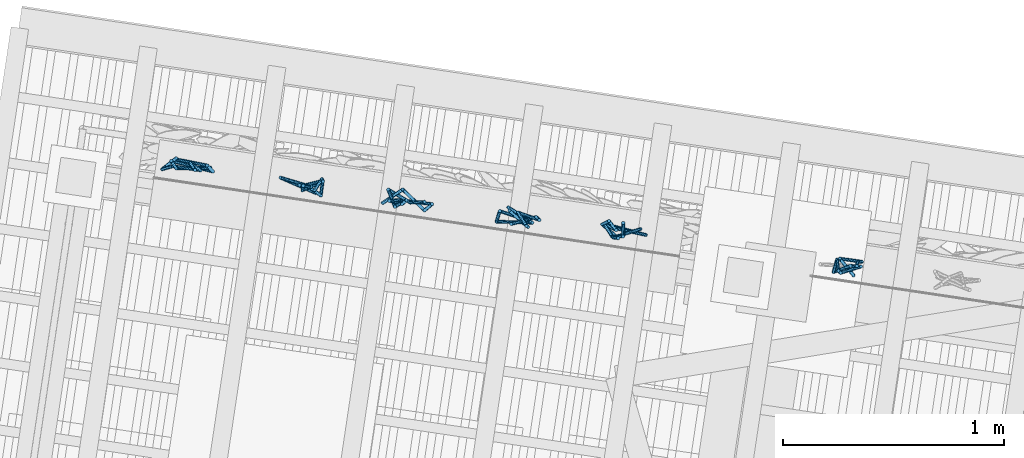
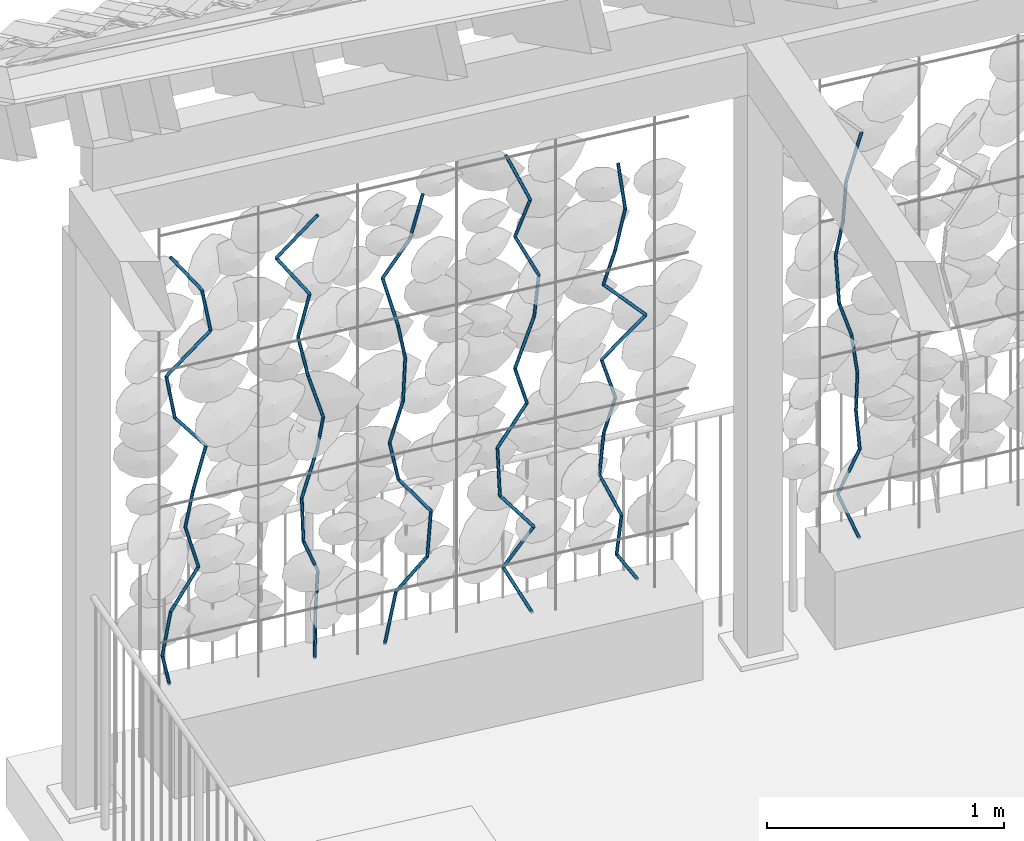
# One storey, part 108 of 131: 65 members, 1 element without a shape of its own.
"""IFC4 building model written with IfcOpenShell, lengths in metres."""

from ifc_helpers import new_model, si_unit, direction, frame, origin_with_axes, place, context, subcontext, project, spatial, circle, extrude, material, material_profile, profile_set, profile_usage, type_object, element, aggregate, save


model = new_model("IFC4")

# Units and contexts
model_context = context("Model", 3, precision=1e-05, world=origin_with_axes(), true_north=direction((0.0, 1.0)))
body_context = subcontext(model_context, "Body", "Model", "MODEL_VIEW")
ifc_project = project(units=[si_unit("VOLUMEUNIT", "CUBIC_METRE"), si_unit("LENGTHUNIT", "METRE"), si_unit("AREAUNIT", "SQUARE_METRE")], contexts=[model_context])

# Site, building, storey
site_placement = place(None, origin_with_axes())
site = spatial("IfcSite", under=ifc_project, at=site_placement, Name="Lares · Rua das Mercês · artigo 4771")
building_placement = place(site_placement, frame((15.0, 9.7, 15.8), z_axis=(0.0, 0.0, 1.0), x_axis=(0.989015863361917, -0.147809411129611, 0.0)))
building = spatial("IfcBuilding", under=site, at=building_placement, Name="Casa Sobreposta")
storey_placement = place(building_placement, origin_with_axes())
storey = spatial("IfcBuildingStorey", under=building, at=storey_placement, Name="00 · Habitação e estacionamento", Elevation=15.8)

# Assembly, members
assembly_placement = place(storey_placement, origin_with_axes())
assembly = element("IfcElementAssembly", 1, at=assembly_placement, inside=storey, Name="Fachada sul e pátio · estrutura e trepadeiras", ObjectType="LIVING_SHADE_TRELLIS", PredefinedType="USERDEFINED")
ifc_material = material(Name="Ramos de trepadeiras", Category="wood")
ifc_material_profile = material_profile(ifc_material, circle(Radius=0.0075))
ifc_profile_set = profile_set([ifc_material_profile], Name="D0.015")
ifc_profile_usage_1 = profile_usage(ifc_profile_set)
member_type = type_object("IfcMemberType", Name="D0.015 / vine_wood", PredefinedType="NOTDEFINED", material=ifc_profile_set)
member_1_placement = place(assembly_placement, frame((-5.61411857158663, 6.58271123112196, 0.35), z_axis=(-0.25595310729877, -0.272623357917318, 0.927450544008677), x_axis=(-0.729045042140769, 0.68446572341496, 0.0)))
member_1 = element("IfcMember", 2, at=member_1_placement, type_object=member_type, material=ifc_profile_usage_1, Name="Trepadeiras · ramo", context=body_context, shape_type="SweptSolid", body=[
    extrude(circle(Radius=0.0075), origin_with_axes(), (0.0, 0.0, 1.0), 0.216077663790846),
])
ifc_profile_usage_2 = profile_usage(ifc_profile_set)
member_2_placement = place(assembly_placement, frame((-5.66942432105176, 6.52380341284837, 0.550401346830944), z_axis=(0.223618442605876, 0.102514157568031, 0.969270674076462), x_axis=(0.416729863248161, -0.909030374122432, 0.0)))
member_2 = element("IfcMember", 3, at=member_2_placement, type_object=member_type, material=ifc_profile_usage_2, Name="Trepadeiras · ramo", context=body_context, shape_type="SweptSolid", body=[
    extrude(circle(Radius=0.0075), origin_with_axes(), (0.0, 0.0, 1.0), 0.206754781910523),
])
ifc_profile_usage_3 = profile_usage(ifc_profile_set)
member_3_placement = place(assembly_placement, frame((-5.62319013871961, 6.54499870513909, 0.750802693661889), z_axis=(0.532575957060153, 3.294163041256e-05, 0.846382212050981), x_axis=(6.18533937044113e-05, -0.999999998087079, 0.0)))
member_3 = element("IfcMember", 4, at=member_3_placement, type_object=member_type, material=ifc_profile_usage_3, Name="Trepadeiras · ramo", context=body_context, shape_type="SweptSolid", body=[
    extrude(circle(Radius=0.0075), origin_with_axes(), (0.0, 0.0, 1.0), 0.236774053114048),
])
ifc_profile_usage_4 = profile_usage(ifc_profile_set)
member_4_placement = place(assembly_placement, frame((-5.49708997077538, 6.54500650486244, 0.951204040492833), z_axis=(-0.239528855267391, 0.119534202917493, 0.963502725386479), x_axis=(0.446525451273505, 0.894770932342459, 0.0)))
member_4 = element("IfcMember", 5, at=member_4_placement, type_object=member_type, material=ifc_profile_usage_4, Name="Trepadeiras · ramo", context=body_context, shape_type="SweptSolid", body=[
    extrude(circle(Radius=0.0075), origin_with_axes(), (0.0, 0.0, 1.0), 0.207992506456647),
])
ifc_profile_usage_5 = profile_usage(ifc_profile_set)
member_5_placement = place(assembly_placement, frame((-5.54691017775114, 6.56986872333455, 1.15160538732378), z_axis=(0.122474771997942, -0.132170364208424, 0.983631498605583), x_axis=(-0.733498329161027, -0.679691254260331, 0.0)))
member_5 = element("IfcMember", 6, at=member_5_placement, type_object=member_type, material=ifc_profile_usage_5, Name="Trepadeiras · ramo", context=body_context, shape_type="SweptSolid", body=[
    extrude(circle(Radius=0.0075), origin_with_axes(), (0.0, 0.0, 1.0), 0.203736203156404),
])
ifc_profile_usage_6 = profile_usage(ifc_profile_set)
member_6_placement = place(assembly_placement, frame((-5.52195763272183, 6.54294083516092, 1.35200673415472), z_axis=(0.313091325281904, 0.099115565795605, 0.944536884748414), x_axis=(0.301808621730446, -0.953368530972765, 0.0)))
member_6 = element("IfcMember", 7, at=member_6_placement, type_object=member_type, material=ifc_profile_usage_6, Name="Trepadeiras · ramo", context=body_context, shape_type="SweptSolid", body=[
    extrude(circle(Radius=0.0075), origin_with_axes(), (0.0, 0.0, 1.0), 0.212168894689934),
])
ifc_profile_usage_7 = profile_usage(ifc_profile_set)
member_7_placement = place(assembly_placement, frame((-5.45552939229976, 6.56397007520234, 1.55240808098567), z_axis=(-0.600870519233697, -0.104344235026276, 0.792506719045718), x_axis=(-0.171094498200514, 0.985254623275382, 0.0)))
member_7 = element("IfcMember", 8, at=member_7_placement, type_object=member_type, material=ifc_profile_usage_7, Name="Trepadeiras · ramo", context=body_context, shape_type="SweptSolid", body=[
    extrude(circle(Radius=0.0075), origin_with_axes(), (0.0, 0.0, 1.0), 0.252870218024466),
])
ifc_profile_usage_8 = profile_usage(ifc_profile_set)
member_8_placement = place(assembly_placement, frame((-5.60747165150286, 6.53758452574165, 1.75280942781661), z_axis=(-0.131534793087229, 0.146118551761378, 0.980483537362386), x_axis=(0.743223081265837, 0.669043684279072, 0.0)))
member_8 = element("IfcMember", 9, at=member_8_placement, type_object=member_type, material=ifc_profile_usage_8, Name="Trepadeiras · ramo", context=body_context, shape_type="SweptSolid", body=[
    extrude(circle(Radius=0.0075), origin_with_axes(), (0.0, 0.0, 1.0), 0.204390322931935),
])
ifc_profile_usage_9 = profile_usage(ifc_profile_set)
member_9_placement = place(assembly_placement, frame((-5.63435609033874, 6.56744974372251, 1.95321077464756), z_axis=(0.69318811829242, -0.0709018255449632, 0.717260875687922), x_axis=(-0.101752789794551, -0.994809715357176, -7.14259946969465e-18)))
member_9 = element("IfcMember", 10, at=member_9_placement, type_object=member_type, material=ifc_profile_usage_9, Name="Trepadeiras · ramo", context=body_context, shape_type="SweptSolid", body=[
    extrude(circle(Radius=0.0075), origin_with_axes(), (0.0, 0.0, 1.0), 0.27939812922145),
])
ifc_profile_usage_10 = profile_usage(ifc_profile_set)
member_10_placement = place(assembly_placement, frame((-5.44068062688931, 6.54763990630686, 2.1536121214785), z_axis=(-0.148451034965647, 0.114497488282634, 0.98226911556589), x_axis=(0.610730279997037, 0.791838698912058, 0.0)))
member_10 = element("IfcMember", 11, at=member_10_placement, type_object=member_type, material=ifc_profile_usage_10, Name="Trepadeiras · ramo", context=body_context, shape_type="SweptSolid", body=[
    extrude(circle(Radius=0.0075), origin_with_axes(), (0.0, 0.0, 1.0), 0.204018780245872),
])
ifc_profile_usage_11 = profile_usage(ifc_profile_set)
member_11_placement = place(assembly_placement, frame((-5.47096742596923, 6.5709995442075, 2.35401346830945), z_axis=(-0.571948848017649, 0.0270050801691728, 0.819844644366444), x_axis=(0.0471633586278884, 0.998887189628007, 0.0)))
member_11 = element("IfcMember", 12, at=member_11_placement, type_object=member_type, material=ifc_profile_usage_11, Name="Trepadeiras · ramo", context=body_context, shape_type="SweptSolid", body=[
    extrude(circle(Radius=0.0075), origin_with_axes(), (0.0, 0.0, 1.0), 0.244438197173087),
])
ifc_profile_usage_12 = profile_usage(ifc_profile_set)
member_12_placement = place(assembly_placement, frame((-4.97365541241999, 6.53247608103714, 0.35), z_axis=(0.113277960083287, 0.251041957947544, 0.961325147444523), x_axis=(0.911501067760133, -0.411297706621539, 0.0)))
member_12 = element("IfcMember", 13, at=member_12_placement, type_object=member_type, material=ifc_profile_usage_12, Name="Trepadeiras · ramo", context=body_context, shape_type="SweptSolid", body=[
    extrude(circle(Radius=0.0075), origin_with_axes(), (0.0, 0.0, 1.0), 0.217037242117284),
])
ifc_profile_usage_13 = profile_usage(ifc_profile_set)
member_13_placement = place(assembly_placement, frame((-4.94906987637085, 6.5869615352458, 0.55864335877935), z_axis=(0.0302040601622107, -0.0488837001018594, 0.998347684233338), x_axis=(-0.850710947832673, -0.525633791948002, -3.76738526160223e-18)))
member_13 = element("IfcMember", 14, at=member_13_placement, type_object=member_type, material=ifc_profile_usage_13, Name="Trepadeiras · ramo", context=body_context, shape_type="SweptSolid", body=[
    extrude(circle(Radius=0.0075), origin_with_axes(), (0.0, 0.0, 1.0), 0.208988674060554),
])
ifc_profile_usage_14 = profile_usage(ifc_profile_set)
member_14_placement = place(assembly_placement, frame((-4.9427575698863, 6.57674539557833, 0.7672867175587), z_axis=(-0.370433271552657, -0.228152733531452, 0.900402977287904), x_axis=(-0.524420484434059, 0.85145942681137, 0.0)))
member_14 = element("IfcMember", 15, at=member_14_placement, type_object=member_type, material=ifc_profile_usage_14, Name="Trepadeiras · ramo", context=body_context, shape_type="SweptSolid", body=[
    extrude(circle(Radius=0.0075), origin_with_axes(), (0.0, 0.0, 1.0), 0.231722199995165),
])
ifc_profile_usage_15 = profile_usage(ifc_profile_set)
member_15_placement = place(assembly_placement, frame((-5.02859518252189, 6.52387734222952, 0.97593007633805), z_axis=(0.00409407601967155, 0.0994936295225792, 0.995029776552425), x_axis=(0.999154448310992, -0.0411143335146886, -5.41693602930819e-19)))
member_15 = element("IfcMember", 16, at=member_15_placement, type_object=member_type, material=ifc_profile_usage_15, Name="Trepadeiras · ramo", context=body_context, shape_type="SweptSolid", body=[
    extrude(circle(Radius=0.0075), origin_with_axes(), (0.0, 0.0, 1.0), 0.209685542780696),
])
ifc_profile_usage_16 = profile_usage(ifc_profile_set)
member_16_placement = place(assembly_placement, frame((-5.02773671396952, 6.54473971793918, 1.1845734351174), z_axis=(0.367459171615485, 0.156102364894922, 0.916845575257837), x_axis=(0.390996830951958, -0.920392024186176, 0.0)))
member_16 = element("IfcMember", 17, at=member_16_placement, type_object=member_type, material=ifc_profile_usage_16, Name="Trepadeiras · ramo", context=body_context, shape_type="SweptSolid", body=[
    extrude(circle(Radius=0.0075), origin_with_axes(), (0.0, 0.0, 1.0), 0.227566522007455),
])
ifc_profile_usage_17 = profile_usage(ifc_profile_set)
member_17_placement = place(assembly_placement, frame((-4.94411530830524, 6.58026339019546, 1.39321679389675), z_axis=(0.00546661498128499, -0.307535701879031, 0.951520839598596), x_axis=(-0.999842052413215, -0.0177727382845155, 0.0)))
member_17 = element("IfcMember", 18, at=member_17_placement, type_object=member_type, material=ifc_profile_usage_17, Name="Trepadeiras · ramo", context=body_context, shape_type="SweptSolid", body=[
    extrude(circle(Radius=0.0075), origin_with_axes(), (0.0, 0.0, 1.0), 0.219273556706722),
])
ifc_profile_usage_18 = profile_usage(ifc_profile_set)
member_18_placement = place(assembly_placement, frame((-4.94291662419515, 6.51282894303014, 1.6018601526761), z_axis=(-0.262504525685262, 0.137652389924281, 0.955061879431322), x_axis=(0.464404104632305, 0.885623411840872, 0.0)))
member_18 = element("IfcMember", 19, at=member_18_placement, type_object=member_type, material=ifc_profile_usage_18, Name="Trepadeiras · ramo", context=body_context, shape_type="SweptSolid", body=[
    extrude(circle(Radius=0.0075), origin_with_axes(), (0.0, 0.0, 1.0), 0.218460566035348),
])
ifc_profile_usage_19 = profile_usage(ifc_profile_set)
member_19_placement = place(assembly_placement, frame((-5.00026351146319, 6.54290056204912, 1.81050351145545), z_axis=(-0.20895710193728, 0.00814681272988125, 0.977890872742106), x_axis=(0.0389583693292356, 0.999240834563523, 0.0)))
member_19 = element("IfcMember", 20, at=member_19_placement, type_object=member_type, material=ifc_profile_usage_19, Name="Trepadeiras · ramo", context=body_context, shape_type="SweptSolid", body=[
    extrude(circle(Radius=0.0075), origin_with_axes(), (0.0, 0.0, 1.0), 0.213360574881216),
])
ifc_profile_usage_20 = profile_usage(ifc_profile_set)
member_20_placement = place(assembly_placement, frame((-5.04484671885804, 6.54463877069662, 2.0191468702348), z_axis=(0.246434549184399, 0.00303803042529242, 0.969154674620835), x_axis=(0.0123270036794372, -0.999924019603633, 0.0)))
member_20 = element("IfcMember", 21, at=member_20_placement, type_object=member_type, material=ifc_profile_usage_20, Name="Trepadeiras · ramo", context=body_context, shape_type="SweptSolid", body=[
    extrude(circle(Radius=0.0075), origin_with_axes(), (0.0, 0.0, 1.0), 0.215283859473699),
])
ifc_profile_usage_21 = profile_usage(ifc_profile_set)
member_21_placement = place(assembly_placement, frame((-4.99179333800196, 6.54529280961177, 2.22779022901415), z_axis=(-0.565768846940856, 0.0803060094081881, 0.82064398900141), x_axis=(0.140532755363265, 0.990076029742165, 0.0)))
member_21 = element("IfcMember", 22, at=member_21_placement, type_object=member_type, material=ifc_profile_usage_21, Name="Trepadeiras · ramo", context=body_context, shape_type="SweptSolid", body=[
    extrude(circle(Radius=0.0075), origin_with_axes(), (0.0, 0.0, 1.0), 0.254243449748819),
])
ifc_profile_usage_22 = profile_usage(ifc_profile_set)
member_22_placement = place(assembly_placement, frame((-5.13563636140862, 6.56571008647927, 2.4364335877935), z_axis=(0.622808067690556, -0.168397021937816, 0.764037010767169), x_axis=(-0.261010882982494, -0.965335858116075, 0.0)))
member_22 = element("IfcMember", 23, at=member_22_placement, type_object=member_type, material=ifc_profile_usage_22, Name="Trepadeiras · ramo", context=body_context, shape_type="SweptSolid", body=[
    extrude(circle(Radius=0.0075), origin_with_axes(), (0.0, 0.0, 1.0), 0.273080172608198),
])
ifc_profile_usage_23 = profile_usage(ifc_profile_set)
member_23_placement = place(assembly_placement, frame((-4.66147928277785, 6.52019842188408, 0.35), z_axis=(0.347230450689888, 0.318450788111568, 0.882054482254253), x_axis=(0.675904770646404, -0.736988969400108, 0.0)))
member_23 = element("IfcMember", 24, at=member_23_placement, type_object=member_type, material=ifc_profile_usage_23, Name="Trepadeiras · ramo", context=body_context, shape_type="SweptSolid", body=[
    extrude(circle(Radius=0.0075), origin_with_axes(), (0.0, 0.0, 1.0), 0.232364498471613),
])
ifc_profile_usage_24 = profile_usage(ifc_profile_set)
member_24_placement = place(assembly_placement, frame((-4.58079525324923, 6.59419507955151, 0.554958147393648), z_axis=(0.452894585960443, -0.319221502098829, 0.832456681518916), x_axis=(-0.576118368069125, -0.817366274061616, 0.0)))
member_24 = element("IfcMember", 25, at=member_24_placement, type_object=member_type, material=ifc_profile_usage_24, Name="Trepadeiras · ramo", context=body_context, shape_type="SweptSolid", body=[
    extrude(circle(Radius=0.0075), origin_with_axes(), (0.0, 0.0, 1.0), 0.246208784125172),
])
ifc_profile_usage_25 = profile_usage(ifc_profile_set)
member_25_placement = place(assembly_placement, frame((-4.46928862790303, 6.51559994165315, 0.759916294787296), z_axis=(0.140844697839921, 0.157390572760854, 0.977441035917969), x_axis=(0.745190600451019, -0.666851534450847, 0.0)))
member_25 = element("IfcMember", 26, at=member_25_placement, type_object=member_type, material=ifc_profile_usage_25, Name="Trepadeiras · ramo", context=body_context, shape_type="SweptSolid", body=[
    extrude(circle(Radius=0.0075), origin_with_axes(), (0.0, 0.0, 1.0), 0.209688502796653),
])
ifc_profile_usage_26 = profile_usage(ifc_profile_set)
member_26_placement = place(assembly_placement, frame((-4.43975511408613, 6.54860293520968, 0.964874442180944), z_axis=(-0.589789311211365, -0.0157253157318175, 0.807404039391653), x_axis=(-0.0266531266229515, 0.9996447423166, 0.0)))
member_26 = element("IfcMember", 27, at=member_26_placement, type_object=member_type, material=ifc_profile_usage_26, Name="Trepadeiras · ramo", context=body_context, shape_type="SweptSolid", body=[
    extrude(circle(Radius=0.0075), origin_with_axes(), (0.0, 0.0, 1.0), 0.25384830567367),
])
ifc_profile_usage_27 = profile_usage(ifc_profile_set)
member_27_placement = place(assembly_placement, frame((-4.58947213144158, 6.54461109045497, 1.16983258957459), z_axis=(-0.208706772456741, -0.0466453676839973, 0.976865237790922), x_axis=(-0.218115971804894, 0.975922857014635, 0.0)))
member_27 = element("IfcMember", 28, at=member_27_placement, type_object=member_type, material=ifc_profile_usage_27, Name="Trepadeiras · ramo", context=body_context, shape_type="SweptSolid", body=[
    extrude(circle(Radius=0.0075), origin_with_axes(), (0.0, 0.0, 1.0), 0.209812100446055),
])
ifc_profile_usage_28 = profile_usage(ifc_profile_set)
member_28_placement = place(assembly_placement, frame((-4.63326133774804, 6.53482432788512, 1.37479073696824), z_axis=(0.277794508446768, -0.0278912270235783, 0.960235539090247), x_axis=(-0.0999001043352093, -0.994997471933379, 0.0)))
member_28 = element("IfcMember", 29, at=member_28_placement, type_object=member_type, material=ifc_profile_usage_28, Name="Trepadeiras · ramo", context=body_context, shape_type="SweptSolid", body=[
    extrude(circle(Radius=0.0075), origin_with_axes(), (0.0, 0.0, 1.0), 0.213445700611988),
])
ifc_profile_usage_29 = profile_usage(ifc_profile_set)
member_29_placement = place(assembly_placement, frame((-4.57396729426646, 6.52887106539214, 1.57974888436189), z_axis=(0.0838687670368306, 0.0956181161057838, 0.991878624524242), x_axis=(0.751785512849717, -0.659407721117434, 0.0)))
member_29 = element("IfcMember", 30, at=member_29_placement, type_object=member_type, material=ifc_profile_usage_29, Name="Trepadeiras · ramo", context=body_context, shape_type="SweptSolid", body=[
    extrude(circle(Radius=0.0075), origin_with_axes(), (0.0, 0.0, 1.0), 0.206636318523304),
])
ifc_profile_usage_30 = profile_usage(ifc_profile_set)
member_30_placement = place(assembly_placement, frame((-4.55663696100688, 6.54862924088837, 1.78470703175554), z_axis=(-0.222276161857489, -0.169561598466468, 0.96012612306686), x_axis=(-0.606514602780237, 0.795072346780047, 0.0)))
member_30 = element("IfcMember", 31, at=member_30_placement, type_object=member_type, material=ifc_profile_usage_30, Name="Trepadeiras · ramo", context=body_context, shape_type="SweptSolid", body=[
    extrude(circle(Radius=0.0075), origin_with_axes(), (0.0, 0.0, 1.0), 0.213470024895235),
])
ifc_profile_usage_31 = profile_usage(ifc_profile_set)
member_31_placement = place(assembly_placement, frame((-4.60408625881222, 6.51243292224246, 1.98966517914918), z_axis=(-0.187183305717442, 0.32523361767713, 0.926922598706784), x_axis=(0.866705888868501, 0.498819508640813, 0.0)))
member_31 = element("IfcMember", 32, at=member_31_placement, type_object=member_type, material=ifc_profile_usage_31, Name="Trepadeiras · ramo", context=body_context, shape_type="SweptSolid", body=[
    extrude(circle(Radius=0.0075), origin_with_axes(), (0.0, 0.0, 1.0), 0.221116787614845),
])
ifc_profile_usage_32 = profile_usage(ifc_profile_set)
member_32_placement = place(assembly_placement, frame((-4.64547563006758, 6.58434753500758, 2.19462332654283), z_axis=(0.456516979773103, -0.185486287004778, 0.870164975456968), x_axis=(-0.37642279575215, -0.926447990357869, 0.0)))
member_32 = element("IfcMember", 33, at=member_32_placement, type_object=member_type, material=ifc_profile_usage_32, Name="Trepadeiras · ramo", context=body_context, shape_type="SweptSolid", body=[
    extrude(circle(Radius=0.0075), origin_with_axes(), (0.0, 0.0, 1.0), 0.235539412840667),
])
ifc_profile_usage_33 = profile_usage(ifc_profile_set)
member_33_placement = place(assembly_placement, frame((-4.53794788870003, 6.54065820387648, 2.39958147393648), z_axis=(0.294258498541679, 0.0599949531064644, 0.953840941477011), x_axis=(0.199775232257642, -0.979841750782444, 0.0)))
member_33 = element("IfcMember", 34, at=member_33_placement, type_object=member_type, material=ifc_profile_usage_33, Name="Trepadeiras · ramo", context=body_context, shape_type="SweptSolid", body=[
    extrude(circle(Radius=0.0075), origin_with_axes(), (0.0, 0.0, 1.0), 0.214876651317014),
])
ifc_profile_usage_34 = profile_usage(ifc_profile_set)
member_34_placement = place(assembly_placement, frame((-3.99461201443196, 6.50983102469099, 0.35), z_axis=(-0.414408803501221, 0.303237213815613, 0.858086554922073), x_axis=(0.590524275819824, 0.807019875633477, 0.0)))
member_34 = element("IfcMember", 35, at=member_34_placement, type_object=member_type, material=ifc_profile_usage_34, Name="Trepadeiras · ramo", context=body_context, shape_type="SweptSolid", body=[
    extrude(circle(Radius=0.0075), origin_with_axes(), (0.0, 0.0, 1.0), 0.248352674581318),
])
ifc_profile_usage_35 = profile_usage(ifc_profile_set)
member_35_placement = place(assembly_placement, frame((-4.09753154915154, 6.58514079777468, 0.563108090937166), z_axis=(0.474460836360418, -0.211116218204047, 0.854585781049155), x_axis=(-0.406531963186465, -0.913636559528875, 0.0)))
member_35 = element("IfcMember", 36, at=member_35_placement, type_object=member_type, material=ifc_profile_usage_35, Name="Trepadeiras · ramo", context=body_context, shape_type="SweptSolid", body=[
    extrude(circle(Radius=0.0075), origin_with_axes(), (0.0, 0.0, 1.0), 0.249370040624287),
])
ifc_profile_usage_36 = profile_usage(ifc_profile_set)
member_36_placement = place(assembly_placement, frame((-3.97921523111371, 6.53249473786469, 0.776216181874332), z_axis=(-0.601453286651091, -0.0721014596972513, 0.795647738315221), x_axis=(-0.119026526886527, 0.992891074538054, 0.0)))
member_36 = element("IfcMember", 37, at=member_36_placement, type_object=member_type, material=ifc_profile_usage_36, Name="Trepadeiras · ramo", context=body_context, shape_type="SweptSolid", body=[
    extrude(circle(Radius=0.0075), origin_with_axes(), (0.0, 0.0, 1.0), 0.267842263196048),
])
ifc_profile_usage_37 = profile_usage(ifc_profile_set)
member_37_placement = place(assembly_placement, frame((-4.14030984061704, 6.51318291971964, 0.989324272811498), z_axis=(0.035780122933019, 0.225435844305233, 0.97360077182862), x_axis=(0.987637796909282, -0.156753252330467, 0.0)))
member_37 = element("IfcMember", 38, at=member_37_placement, type_object=member_type, material=ifc_profile_usage_37, Name="Trepadeiras · ramo", context=body_context, shape_type="SweptSolid", body=[
    extrude(circle(Radius=0.0075), origin_with_axes(), (0.0, 0.0, 1.0), 0.218886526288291),
])
ifc_profile_usage_38 = profile_usage(ifc_profile_set)
member_38_placement = place(assembly_placement, frame((-4.13247805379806, 6.56252778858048, 1.20243236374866), z_axis=(0.506159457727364, -0.0863078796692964, 0.858110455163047), x_axis=(-0.168089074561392, -0.985771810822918, 0.0)))
member_38 = element("IfcMember", 39, at=member_38_placement, type_object=member_type, material=ifc_profile_usage_38, Name="Trepadeiras · ramo", context=body_context, shape_type="SweptSolid", body=[
    extrude(circle(Radius=0.0075), origin_with_axes(), (0.0, 0.0, 1.0), 0.248345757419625),
])
ifc_profile_usage_39 = profile_usage(ifc_profile_set)
member_39_placement = place(assembly_placement, frame((-4.00677549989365, 6.54109359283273, 1.41554045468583), z_axis=(-0.292518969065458, -0.127032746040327, 0.947784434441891), x_axis=(-0.398332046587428, 0.917241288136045, 0.0)))
member_39 = element("IfcMember", 40, at=member_39_placement, type_object=member_type, material=ifc_profile_usage_39, Name="Trepadeiras · ramo", context=body_context, shape_type="SweptSolid", body=[
    extrude(circle(Radius=0.0075), origin_with_axes(), (0.0, 0.0, 1.0), 0.22484869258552),
])
ifc_profile_usage_40 = profile_usage(ifc_profile_set)
member_40_placement = place(assembly_placement, frame((-4.07254800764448, 6.51253044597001, 1.628648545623), z_axis=(0.439078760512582, 0.196132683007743, 0.876779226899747), x_axis=(0.407850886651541, -0.9130485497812, 0.0)))
member_40 = element("IfcMember", 41, at=member_40_placement, type_object=member_type, material=ifc_profile_usage_40, Name="Trepadeiras · ramo", context=body_context, shape_type="SweptSolid", body=[
    extrude(circle(Radius=0.0075), origin_with_axes(), (0.0, 0.0, 1.0), 0.243057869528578),
])
ifc_profile_usage_41 = profile_usage(ifc_profile_set)
member_41_placement = place(assembly_placement, frame((-3.96582645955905, 6.5602020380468, 1.84175663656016), z_axis=(0.0752129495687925, -0.0496705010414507, 0.995929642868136), x_axis=(-0.551073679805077, -0.834456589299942, 0.0)))
member_41 = element("IfcMember", 42, at=member_41_placement, type_object=member_type, material=ifc_profile_usage_41, Name="Trepadeiras · ramo", context=body_context, shape_type="SweptSolid", body=[
    extrude(circle(Radius=0.0075), origin_with_axes(), (0.0, 0.0, 1.0), 0.213979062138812),
])
ifc_profile_usage_42 = profile_usage(ifc_profile_set)
member_42_placement = place(assembly_placement, frame((-3.94973246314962, 6.54957359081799, 2.05486472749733), z_axis=(-0.425041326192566, 0.0791766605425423, 0.901704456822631), x_axis=(0.183129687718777, 0.983088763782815, 0.0)))
member_42 = element("IfcMember", 43, at=member_42_placement, type_object=member_type, material=ifc_profile_usage_42, Name="Trepadeiras · ramo", context=body_context, shape_type="SweptSolid", body=[
    extrude(circle(Radius=0.0075), origin_with_axes(), (0.0, 0.0, 1.0), 0.23633917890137),
])
ifc_profile_usage_43 = profile_usage(ifc_profile_set)
member_43_placement = place(assembly_placement, frame((-4.05018638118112, 6.56828613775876, 2.2679728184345), z_axis=(0.210905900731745, -0.242318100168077, 0.94699558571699), x_axis=(-0.754305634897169, -0.656523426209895, 0.0)))
member_43 = element("IfcMember", 44, at=member_43_placement, type_object=member_type, material=ifc_profile_usage_43, Name="Trepadeiras · ramo", context=body_context, shape_type="SweptSolid", body=[
    extrude(circle(Radius=0.0075), origin_with_axes(), (0.0, 0.0, 1.0), 0.225035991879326),
])
ifc_profile_usage_44 = profile_usage(ifc_profile_set)
member_44_placement = place(assembly_placement, frame((-4.00272496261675, 6.51375584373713, 2.48108090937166), z_axis=(-0.368107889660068, 0.243592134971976, 0.897306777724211), x_axis=(0.551853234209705, 0.83394124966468, 0.0)))
member_44 = element("IfcMember", 45, at=member_44_placement, type_object=member_type, material=ifc_profile_usage_44, Name="Trepadeiras · ramo", context=body_context, shape_type="SweptSolid", body=[
    extrude(circle(Radius=0.0075), origin_with_axes(), (0.0, 0.0, 1.0), 0.237497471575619),
])
ifc_profile_usage_45 = profile_usage(ifc_profile_set)
member_45_placement = place(assembly_placement, frame((-3.49058830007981, 6.5769331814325, 0.35), z_axis=(-0.497509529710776, -0.241128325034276, 0.833271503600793), x_axis=(-0.436144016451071, 0.899876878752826, 0.0)))
member_45 = element("IfcMember", 46, at=member_45_placement, type_object=member_type, material=ifc_profile_usage_45, Name="Trepadeiras · ramo", context=body_context, shape_type="SweptSolid", body=[
    extrude(circle(Radius=0.0075), origin_with_axes(), (0.0, 0.0, 1.0), 0.235287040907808),
])
ifc_profile_usage_46 = profile_usage(ifc_profile_set)
member_46_placement = place(assembly_placement, frame((-3.60764584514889, 6.52019881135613, 0.54605798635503), z_axis=(0.113873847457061, 0.00295026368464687, 0.993490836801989), x_axis=(0.0258994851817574, -0.999664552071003, 0.0)))
member_46 = element("IfcMember", 47, at=member_46_placement, type_object=member_type, material=ifc_profile_usage_46, Name="Trepadeiras · ramo", context=body_context, shape_type="SweptSolid", body=[
    extrude(circle(Radius=0.0075), origin_with_axes(), (0.0, 0.0, 1.0), 0.197342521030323),
])
ifc_profile_usage_47 = profile_usage(ifc_profile_set)
member_47_placement = place(assembly_placement, frame((-3.58517369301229, 6.52078102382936, 0.742115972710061), z_axis=(-0.369695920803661, 0.233431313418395, 0.899352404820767), x_axis=(0.533893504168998, 0.845551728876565, 0.0)))
member_47 = element("IfcMember", 48, at=member_47_placement, type_object=member_type, material=ifc_profile_usage_47, Name="Trepadeiras · ramo", context=body_context, shape_type="SweptSolid", body=[
    extrude(circle(Radius=0.0075), origin_with_axes(), (0.0, 0.0, 1.0), 0.217999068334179),
])
ifc_profile_usage_48 = profile_usage(ifc_profile_set)
member_48_placement = place(assembly_placement, frame((-3.66576705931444, 6.5716688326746, 0.938173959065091), z_axis=(0.138799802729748, 0.0971142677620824, 0.985547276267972), x_axis=(0.573281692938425, -0.819358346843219, -1.00923604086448e-17)))
member_48 = element("IfcMember", 49, at=member_48_placement, type_object=member_type, material=ifc_profile_usage_48, Name="Trepadeiras · ramo", context=body_context, shape_type="SweptSolid", body=[
    extrude(circle(Radius=0.0075), origin_with_axes(), (0.0, 0.0, 1.0), 0.198933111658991),
])
ifc_profile_usage_49 = profile_usage(ifc_profile_set)
member_49_placement = place(assembly_placement, frame((-3.63815518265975, 6.59098807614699, 1.13423194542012), z_axis=(0.190810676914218, -0.174664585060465, 0.965962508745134), x_axis=(-0.675209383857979, -0.737626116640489, 0.0)))
member_49 = element("IfcMember", 50, at=member_49_placement, type_object=member_type, material=ifc_profile_usage_49, Name="Trepadeiras · ramo", context=body_context, shape_type="SweptSolid", body=[
    extrude(circle(Radius=0.0075), origin_with_axes(), (0.0, 0.0, 1.0), 0.202966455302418),
])
ifc_profile_usage_50 = profile_usage(ifc_profile_set)
member_50_placement = place(assembly_placement, frame((-3.59942701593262, 6.5555370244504, 1.33028993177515), z_axis=(-0.270469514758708, 0.0949057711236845, 0.958039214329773), x_axis=(0.331100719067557, 0.943595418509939, 0.0)))
member_50 = element("IfcMember", 51, at=member_50_placement, type_object=member_type, material=ifc_profile_usage_50, Name="Trepadeiras · ramo", context=body_context, shape_type="SweptSolid", body=[
    extrude(circle(Radius=0.0075), origin_with_axes(), (0.0, 0.0, 1.0), 0.204645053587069),
])
ifc_profile_usage_51 = profile_usage(ifc_profile_set)
member_51_placement = place(assembly_placement, frame((-3.65477726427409, 6.57495902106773, 1.52634791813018), z_axis=(0.699129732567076, -0.0781554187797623, 0.710710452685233), x_axis=(-0.111097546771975, -0.9938095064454, 0.0)))
member_51 = element("IfcMember", 52, at=member_51_placement, type_object=member_type, material=ifc_profile_usage_51, Name="Trepadeiras · ramo", context=body_context, shape_type="SweptSolid", body=[
    extrude(circle(Radius=0.0075), origin_with_axes(), (0.0, 0.0, 1.0), 0.275861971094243),
])
ifc_profile_usage_52 = profile_usage(ifc_profile_set)
member_52_placement = place(assembly_placement, frame((-3.46191395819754, 6.55339891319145, 1.72240590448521), z_axis=(-0.691554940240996, 0.0447072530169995, 0.720938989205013), x_axis=(0.0645127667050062, 0.997916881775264, 0.0)))
member_52 = element("IfcMember", 53, at=member_52_placement, type_object=member_type, material=ifc_profile_usage_52, Name="Trepadeiras · ramo", context=body_context, shape_type="SweptSolid", body=[
    extrude(circle(Radius=0.0075), origin_with_axes(), (0.0, 0.0, 1.0), 0.271948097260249),
])
ifc_profile_usage_53 = profile_usage(ifc_profile_set)
member_53_placement = place(assembly_placement, frame((-3.649981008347, 6.56555696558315, 1.91846389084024), z_axis=(0.183669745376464, -0.20577426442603, 0.961208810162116), x_axis=(-0.746040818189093, -0.665900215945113, 0.0)))
member_53 = element("IfcMember", 54, at=member_53_placement, type_object=member_type, material=ifc_profile_usage_53, Name="Trepadeiras · ramo", context=body_context, shape_type="SweptSolid", body=[
    extrude(circle(Radius=0.0075), origin_with_axes(), (0.0, 0.0, 1.0), 0.203970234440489),
])
ifc_profile_usage_54 = profile_usage(ifc_profile_set)
member_54_placement = place(assembly_placement, frame((-3.61251784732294, 6.52358514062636, 2.11452187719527), z_axis=(0.23842273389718, 0.0377894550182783, 0.970425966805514), x_axis=(0.156543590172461, -0.987671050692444, 0.0)))
member_54 = element("IfcMember", 55, at=member_54_placement, type_object=member_type, material=ifc_profile_usage_54, Name="Trepadeiras · ramo", context=body_context, shape_type="SweptSolid", body=[
    extrude(circle(Radius=0.0075), origin_with_axes(), (0.0, 0.0, 1.0), 0.202032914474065),
])
ifc_profile_usage_55 = profile_usage(ifc_profile_set)
member_55_placement = place(assembly_placement, frame((-3.56434860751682, 6.53121985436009, 2.3105798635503), z_axis=(-0.0413901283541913, 0.297697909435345, 0.953762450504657), x_axis=(0.990472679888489, 0.13770936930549, 0.0)))
member_55 = element("IfcMember", 56, at=member_55_placement, type_object=member_type, material=ifc_profile_usage_55, Name="Trepadeiras · ramo", context=body_context, shape_type="SweptSolid", body=[
    extrude(circle(Radius=0.0075), origin_with_axes(), (0.0, 0.0, 1.0), 0.205562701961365),
])
ifc_profile_usage_56 = profile_usage(ifc_profile_set)
member_56_placement = place(assembly_placement, frame((-2.50782800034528, 6.51145908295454, 0.35), z_axis=(-0.320876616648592, 0.286835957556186, 0.902642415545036), x_axis=(0.666453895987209, 0.745546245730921, 0.0)))
member_56 = element("IfcMember", 57, at=member_56_placement, type_object=member_type, material=ifc_profile_usage_56, Name="Trepadeiras · ramo", context=body_context, shape_type="SweptSolid", body=[
    extrude(circle(Radius=0.0075), origin_with_axes(), (0.0, 0.0, 1.0), 0.228543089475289),
])
ifc_profile_usage_57 = profile_usage(ifc_profile_set)
member_57_placement = place(assembly_placement, frame((-2.58116213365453, 6.57701345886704, 0.5562926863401), z_axis=(0.437839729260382, 0.0047956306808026, 0.899040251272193), x_axis=(0.0109522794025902, -0.999940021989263, 0.0)))
member_57 = element("IfcMember", 58, at=member_57_placement, type_object=member_type, material=ifc_profile_usage_57, Name="Trepadeiras · ramo", context=body_context, shape_type="SweptSolid", body=[
    extrude(circle(Radius=0.0075), origin_with_axes(), (0.0, 0.0, 1.0), 0.22945878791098),
])
ifc_profile_usage_58 = profile_usage(ifc_profile_set)
member_58_placement = place(assembly_placement, frame((-2.48069596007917, 6.57811385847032, 0.762585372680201), z_axis=(-0.0918985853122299, -0.0196133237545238, 0.995575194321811), x_axis=(-0.208722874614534, 0.977974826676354, 0.0)))
member_58 = element("IfcMember", 59, at=member_58_placement, type_object=member_type, material=ifc_profile_usage_58, Name="Trepadeiras · ramo", context=body_context, shape_type="SweptSolid", body=[
    extrude(circle(Radius=0.0075), origin_with_axes(), (0.0, 0.0, 1.0), 0.207209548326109),
])
ifc_profile_usage_59 = profile_usage(ifc_profile_set)
member_59_placement = place(assembly_placement, frame((-2.49973822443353, 6.57404979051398, 0.968878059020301), z_axis=(-0.00219393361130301, -0.0891972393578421, 0.996011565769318), x_axis=(-0.99969764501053, 0.0245889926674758, -3.02574217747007e-19)))
member_59 = element("IfcMember", 60, at=member_59_placement, type_object=member_type, material=ifc_profile_usage_59, Name="Trepadeiras · ramo", context=body_context, shape_type="SweptSolid", body=[
    extrude(circle(Radius=0.0075), origin_with_axes(), (0.0, 0.0, 1.0), 0.207118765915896),
])
ifc_profile_usage_60 = profile_usage(ifc_profile_set)
member_60_placement = place(assembly_placement, frame((-2.5001926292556, 6.55557536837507, 1.1751707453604), z_axis=(-0.137805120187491, -0.0172154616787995, 0.990309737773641), x_axis=(-0.123962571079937, 0.992286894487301, 0.0)))
member_60 = element("IfcMember", 61, at=member_60_placement, type_object=member_type, material=ifc_profile_usage_60, Name="Trepadeiras · ramo", context=body_context, shape_type="SweptSolid", body=[
    extrude(circle(Radius=0.0075), origin_with_axes(), (0.0, 0.0, 1.0), 0.208311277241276),
])
ifc_profile_usage_61 = profile_usage(ifc_profile_set)
member_61_placement = place(assembly_placement, frame((-2.52889898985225, 6.55198919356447, 1.3814634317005), z_axis=(-0.321798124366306, -0.175495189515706, 0.930401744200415), x_axis=(-0.478786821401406, 0.877931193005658, 0.0)))
member_61 = element("IfcMember", 62, at=member_61_placement, type_object=member_type, material=ifc_profile_usage_61, Name="Trepadeiras · ramo", context=body_context, shape_type="SweptSolid", body=[
    extrude(circle(Radius=0.0075), origin_with_axes(), (0.0, 0.0, 1.0), 0.221724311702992),
])
ifc_profile_usage_62 = profile_usage(ifc_profile_set)
member_62_placement = place(assembly_placement, frame((-2.60024945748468, 6.51307764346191, 1.5877561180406), z_axis=(0.0361142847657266, 0.273442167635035, 0.96121024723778), x_axis=(0.991390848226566, -0.130935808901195, 0.0)))
member_62 = element("IfcMember", 63, at=member_62_placement, type_object=member_type, material=ifc_profile_usage_62, Name="Trepadeiras · ramo", context=body_context, shape_type="SweptSolid", body=[
    extrude(circle(Radius=0.0075), origin_with_axes(), (0.0, 0.0, 1.0), 0.214617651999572),
])
ifc_profile_usage_63 = profile_usage(ifc_profile_set)
member_63_placement = place(assembly_placement, frame((-2.59249869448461, 6.57176315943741, 1.7940488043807), z_axis=(0.0643844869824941, -0.235396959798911, 0.969764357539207), x_axis=(-0.964570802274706, -0.263824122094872, 0.0)))
member_63 = element("IfcMember", 64, at=member_63_placement, type_object=member_type, material=ifc_profile_usage_63, Name="Trepadeiras · ramo", context=body_context, shape_type="SweptSolid", body=[
    extrude(circle(Radius=0.0075), origin_with_axes(), (0.0, 0.0, 1.0), 0.212724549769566),
])
ifc_profile_usage_64 = profile_usage(ifc_profile_set)
member_64_placement = place(assembly_placement, frame((-2.57880253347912, 6.52168844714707, 2.0003414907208), z_axis=(0.053188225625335, -0.0352057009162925, 0.997963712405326), x_axis=(-0.551949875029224, -0.833877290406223, 0.0)))
member_64 = element("IfcMember", 65, at=member_64_placement, type_object=member_type, material=ifc_profile_usage_64, Name="Trepadeiras · ramo", context=body_context, shape_type="SweptSolid", body=[
    extrude(circle(Radius=0.0075), origin_with_axes(), (0.0, 0.0, 1.0), 0.206713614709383),
])
ifc_profile_usage_65 = profile_usage(ifc_profile_set)
member_65_placement = place(assembly_placement, frame((-2.56780780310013, 6.51441094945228, 2.2066341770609), z_axis=(0.384138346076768, 0.185268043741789, 0.904496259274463), x_axis=(0.434410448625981, -0.900715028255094, 0.0)))
member_65 = element("IfcMember", 66, at=member_65_placement, type_object=member_type, material=ifc_profile_usage_65, Name="Trepadeiras · ramo", context=body_context, shape_type="SweptSolid", body=[
    extrude(circle(Radius=0.0075), origin_with_axes(), (0.0, 0.0, 1.0), 0.228074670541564),
])
aggregate(assembly, [member_1, member_2, member_3, member_4, member_5, member_6, member_7, member_8, member_9, member_10, member_11, member_12, member_13, member_14, member_15, member_16, member_17, member_18, member_19, member_20, member_21, member_22, member_23, member_24, member_25, member_26, member_27, member_28, member_29, member_30, member_31, member_32, member_33, member_34, member_35, member_36, member_37, member_38, member_39, member_40, member_41, member_42, member_43, member_44, member_45, member_46, member_47, member_48, member_49, member_50, member_51, member_52, member_53, member_54, member_55, member_56, member_57, member_58, member_59, member_60, member_61, member_62, member_63, member_64, member_65])

save(model, "model.ifc")
